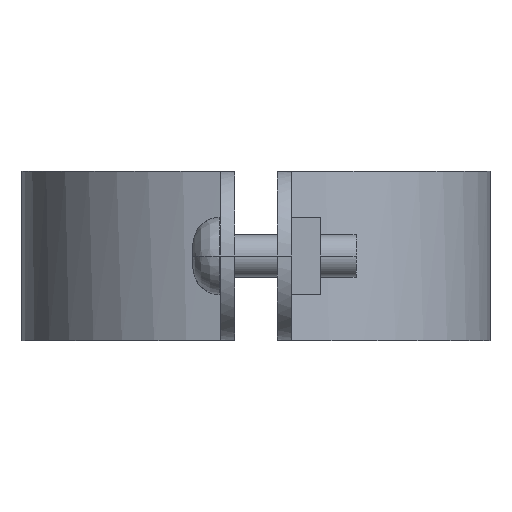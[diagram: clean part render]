
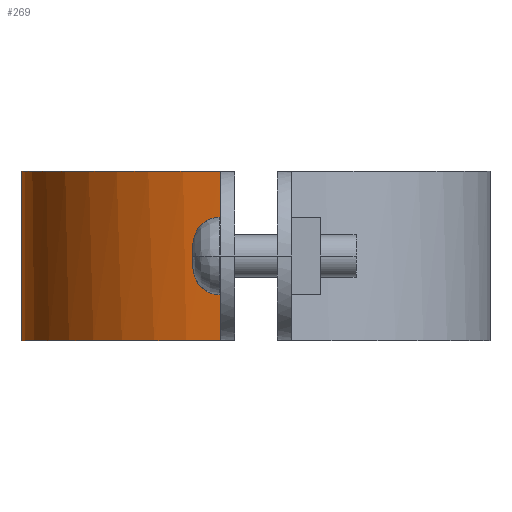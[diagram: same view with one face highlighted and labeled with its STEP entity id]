
A CAD part, left-side view. The second image highlights one B-rep face of the part: STEP entity #269.
In plain terms, the highlighted free-form (B-spline) face has degree [3, 1] with [4, 2] control points.
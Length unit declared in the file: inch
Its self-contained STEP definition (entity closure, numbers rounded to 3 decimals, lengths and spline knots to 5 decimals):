
#269=ADVANCED_FACE('',(#529),#530,.T.);
#529=FACE_OUTER_BOUND('',#1090,.T.);
#530=B_SPLINE_SURFACE_WITH_KNOTS('',3,1,((#1091,#1092),(#1093,#1094),(#1095,#1096),(#1097,#1098)),.UNSPECIFIED.,.F.,.F.,.F.,(4,4),(2,2),(-1.0,-0.0),(0.0,1.25),.UNSPECIFIED.);
#1090=EDGE_LOOP('',(#1752,#1753,#1754,#1755));
#1091=CARTESIAN_POINT('',(2.49913,3.58181,0.0));
#1092=CARTESIAN_POINT('',(2.49913,3.58181,1.25));
#1093=CARTESIAN_POINT('',(1.64511,3.58181,0.0));
#1094=CARTESIAN_POINT('',(1.64511,3.58181,1.25));
#1095=CARTESIAN_POINT('',(0.91899,2.9582,0.0));
#1096=CARTESIAN_POINT('',(0.91899,2.9582,1.25));
#1097=CARTESIAN_POINT('',(0.79003,2.11394,0.0));
#1098=CARTESIAN_POINT('',(0.79003,2.11394,1.25));
#1752=ORIENTED_EDGE('',*,*,#2106,.T.);
#1753=ORIENTED_EDGE('',*,*,#2031,.T.);
#1754=ORIENTED_EDGE('',*,*,#2227,.T.);
#1755=ORIENTED_EDGE('',*,*,#2228,.F.);
#2031=EDGE_CURVE('',#2308,#2315,#2317,.T.);
#2106=EDGE_CURVE('',#2437,#2308,#2448,.T.);
#2227=EDGE_CURVE('',#2315,#2616,#2617,.T.);
#2228=EDGE_CURVE('',#2437,#2616,#2618,.T.);
#2308=VERTEX_POINT('',#2742);
#2315=VERTEX_POINT('',#2756);
#2317=LINE('',#2759,#2760);
#2437=VERTEX_POINT('',#3015);
#2448=B_SPLINE_CURVE_WITH_KNOTS('',3,(#3034,#3035,#3036,#3037),.UNSPECIFIED.,.F.,.F.,(4,4),(-1.0,-0.0),.UNSPECIFIED.);
#2616=VERTEX_POINT('',#3395);
#2617=B_SPLINE_CURVE_WITH_KNOTS('',3,(#3396,#3397,#3398,#3399),.UNSPECIFIED.,.F.,.F.,(4,4),(0.0,1.0),.UNSPECIFIED.);
#2618=LINE('',#3400,#3401);
#2742=CARTESIAN_POINT('',(0.79003,2.11394,0.00011));
#2756=CARTESIAN_POINT('',(0.79003,2.11394,1.2499));
#2759=CARTESIAN_POINT('',(0.79003,2.11394,0.0));
#2760=VECTOR('',#3513,1.0);
#3015=CARTESIAN_POINT('',(2.49913,3.58181,0.00011));
#3034=CARTESIAN_POINT('',(2.49913,3.58181,0.00011));
#3035=CARTESIAN_POINT('',(1.64511,3.58181,0.00011));
#3036=CARTESIAN_POINT('',(0.91899,2.9582,0.00011));
#3037=CARTESIAN_POINT('',(0.79003,2.11394,0.00011));
#3395=CARTESIAN_POINT('',(2.49913,3.58181,1.2499));
#3396=CARTESIAN_POINT('',(0.79003,2.11394,1.2499));
#3397=CARTESIAN_POINT('',(0.91899,2.9582,1.2499));
#3398=CARTESIAN_POINT('',(1.64511,3.58181,1.2499));
#3399=CARTESIAN_POINT('',(2.49913,3.58181,1.2499));
#3400=CARTESIAN_POINT('',(2.49913,3.58181,0.0));
#3401=VECTOR('',#3619,1.0);
#3513=DIRECTION('',(0.0,0.0,1.0));
#3619=DIRECTION('',(0.0,0.0,1.0));
